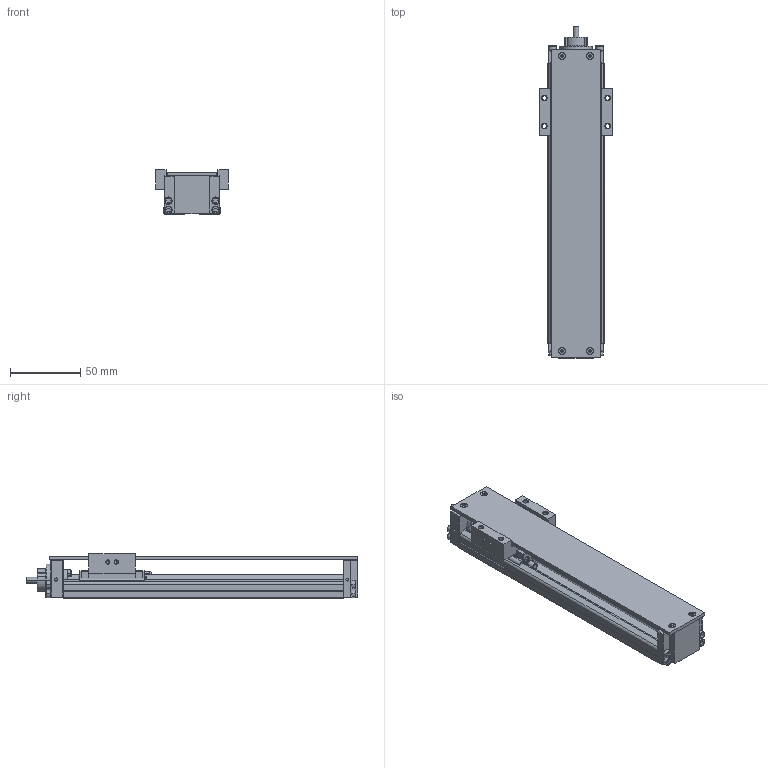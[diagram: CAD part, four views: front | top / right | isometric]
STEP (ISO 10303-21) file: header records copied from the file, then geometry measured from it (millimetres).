
FILE_DESCRIPTION(('no description'),'unknown implementation level');
FILE_NAME('KK4001P200A1H0C00_FILE_4.stp',' ',('HIWIN GmbH'),('CADClick - KiM GmbH - www.kimweb.de'),'unknown preprocess','ACIS','unknown authorization');
FILE_SCHEMA(('automotive_design'));
Length unit declared in the file: millimetre
Products named in the file (2): KK40_FILE; KK4001P200A1H0C00_FILE
Bounding box: 52 x 236.5 x 32 mm (x, y, z)
Volume: 138446.2 mm3; surface area: 67341.7 mm2
Topology: 2 solids, 18 shells, 929 faces, 2413 edges, 1540 vertices
Faces by surface type: plane 544, cylinder 285, cone 56, torus 42, sphere 2
Entity records: 56786 total; most frequent: CARTESIAN_POINT 6332, DIRECTION 4922, STYLED_ITEM 4876, PRESENTATION_STYLE_ASSIGNMENT 4876, COLOUR_RGB 4876, ORIENTED_EDGE 4810, EDGE_CURVE 2405, CURVE_STYLE 2405
